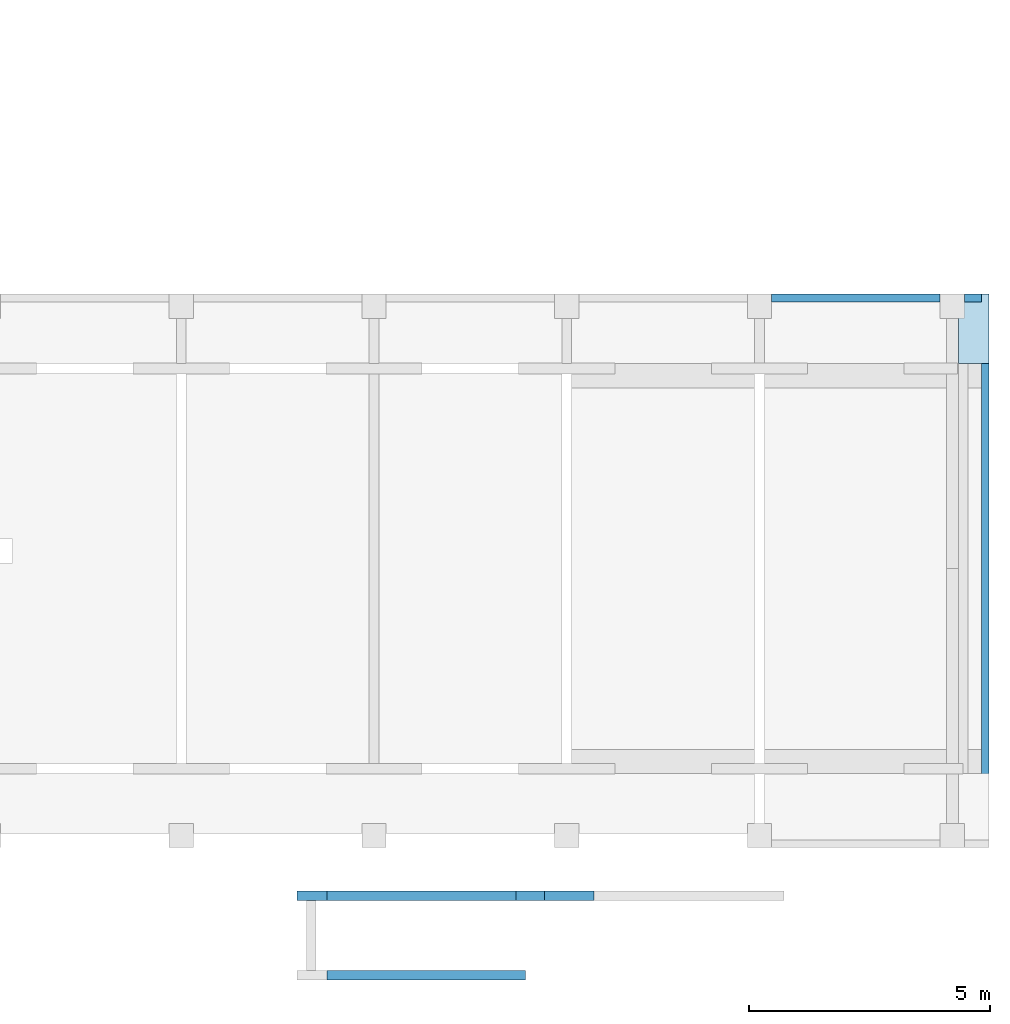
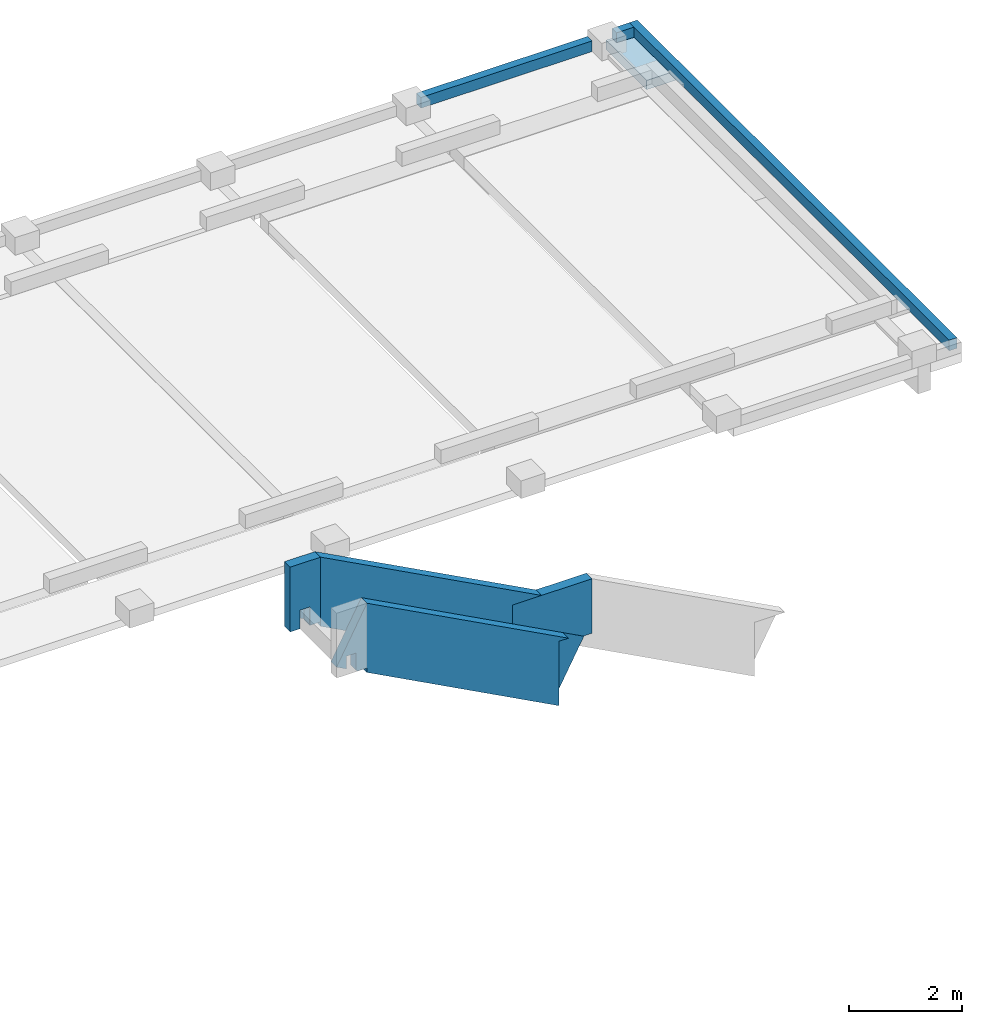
# One storey, part 5 of 5: 6 beams, 1 slab.
"""IFC2X3 building model written with IfcOpenShell, lengths in metres."""

from ifc_helpers import new_model, entity, si_unit, converted_unit, derived_unit, direction, frame, origin, place, context, subcontext, project, spatial, faceted_brep, source, transform, mapped, material, type_object, type_shapes, element, save


model = new_model("IFC2X3")

# Units and contexts
model_context = context("Model", 3, precision=1e-05, world=origin(), true_north=direction((6.12303176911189e-17, 1.0)))
body_context = subcontext(model_context, "Body", "Model", "MODEL_VIEW")
ifc_project = project(units=[si_unit("LENGTHUNIT", "METRE"), si_unit("AREAUNIT", "SQUARE_METRE"), si_unit("VOLUMEUNIT", "CUBIC_METRE"), converted_unit("PLANEANGLEUNIT", "DEGREE", entity("IfcRatioMeasure", 0.0174532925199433), si_unit("PLANEANGLEUNIT", "RADIAN"), dimensions=[0, 0, 0, 0, 0, 0, 0]), si_unit("MASSUNIT", "GRAM", prefix="KILO"), derived_unit("MASSDENSITYUNIT", [(si_unit("MASSUNIT", "GRAM", prefix="KILO"), 1), (si_unit("LENGTHUNIT", "METRE"), -3)]), si_unit("TIMEUNIT", "SECOND"), si_unit("FREQUENCYUNIT", "HERTZ"), si_unit("THERMODYNAMICTEMPERATUREUNIT", "DEGREE_CELSIUS"), derived_unit("THERMALTRANSMITTANCEUNIT", [(si_unit("MASSUNIT", "GRAM", prefix="KILO"), 1), (si_unit("THERMODYNAMICTEMPERATUREUNIT", "KELVIN"), -1), (si_unit("TIMEUNIT", "SECOND"), -3)]), derived_unit("VOLUMETRICFLOWRATEUNIT", [(si_unit("LENGTHUNIT", "METRE"), 3), (si_unit("TIMEUNIT", "SECOND"), -1)]), si_unit("ELECTRICCURRENTUNIT", "AMPERE"), si_unit("ELECTRICVOLTAGEUNIT", "VOLT"), si_unit("POWERUNIT", "WATT"), si_unit("FORCEUNIT", "NEWTON"), si_unit("ILLUMINANCEUNIT", "LUX"), si_unit("LUMINOUSFLUXUNIT", "LUMEN"), si_unit("LUMINOUSINTENSITYUNIT", "CANDELA"), derived_unit("USERDEFINED", [(si_unit("MASSUNIT", "GRAM", prefix="KILO"), -1), (si_unit("LENGTHUNIT", "METRE"), -2), (si_unit("TIMEUNIT", "SECOND"), 3), (si_unit("LUMINOUSFLUXUNIT", "LUMEN"), 1)]), derived_unit("LINEARVELOCITYUNIT", [(si_unit("LENGTHUNIT", "METRE"), 1), (si_unit("TIMEUNIT", "SECOND"), -1)]), si_unit("PRESSUREUNIT", "PASCAL"), derived_unit("USERDEFINED", [(si_unit("LENGTHUNIT", "METRE"), -2), (si_unit("MASSUNIT", "GRAM", prefix="KILO"), 1), (si_unit("TIMEUNIT", "SECOND"), -2)])], contexts=[model_context])

# Site, building, storey
site_placement = place(None, origin())
site = spatial("IfcSite", under=ifc_project, at=site_placement, Name="Default", CompositionType="ELEMENT")
building_placement = place(site_placement, origin())
building = spatial("IfcBuilding", under=site, at=building_placement, CompositionType="ELEMENT")
storey_placement = place(building_placement, origin())
storey = spatial("IfcBuildingStorey", under=building, at=storey_placement, Name="S01", CompositionType="ELEMENT", Elevation=0.0)

# Beams
ifc_material = material(Name="Béton, coulé sur place gris")
beam_type_1 = type_object("IfcBeamType", Name="16x23ht", PredefinedType="BEAM")
beam_1_placement = place(storey_placement, frame((70.0914484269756, -194.841320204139, -0.0815952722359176), z_axis=(0.0, 0.0, 1.0), x_axis=(0.0, 1.0, 0.0)))
element("IfcBeam", 1, at=beam_1_placement, inside=storey, type_object=beam_type_1, material=ifc_material, Name="II-Poutre rectangulaire - Béton:16x23ht", ObjectType="II-Poutre rectangulaire - Béton:16x23ht", context=body_context, shape_type="Brep", body=[
    faceted_brep([(11.3265011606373, -0.0549286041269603, 0.00493736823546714), (11.3265011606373, -0.00159527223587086, 0.00660848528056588), (11.3265011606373, -0.00159527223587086, 0.231595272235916), (11.3265011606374, -0.161595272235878, 0.231595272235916), (11.3265011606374, -0.161595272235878, 0.001595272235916), (11.3265011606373, -0.108261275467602, 0.00326627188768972), (11.1665011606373, -0.00159527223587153, 0.231595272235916), (0.0, -0.001595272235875, 0.231595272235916), (0.0, -0.161595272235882, 0.231595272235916), (0.0, -0.161595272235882, 0.001595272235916), (1.38166890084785, -0.161595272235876, 0.00159527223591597), (1.88166890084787, -0.161595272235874, 0.00159527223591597), (9.38483194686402, -0.161595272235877, 0.001595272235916), (9.88483194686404, -0.161595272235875, 0.001595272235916), (9.88483194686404, -0.161595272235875, 0.0215952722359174), (10.0450174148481, -0.161595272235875, 0.0193730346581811), (10.2052028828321, -0.161595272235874, 0.0171507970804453), (10.3653883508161, -0.161595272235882, 0.0149285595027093), (10.5255738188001, -0.161595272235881, 0.0127063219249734), (10.6857592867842, -0.16159527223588, 0.0104840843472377), (10.8459447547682, -0.16159527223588, 0.00826184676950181), (11.0061302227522, -0.161595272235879, 0.00603960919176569), (11.1663156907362, -0.161595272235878, 0.00381737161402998), (0.0, -0.001595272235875, 0.001595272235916), (1.38166890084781, -0.00159527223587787, 0.001595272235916), (1.88166890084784, -0.00159527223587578, 0.001595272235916), (9.38483194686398, -0.00159527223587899, 0.001595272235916), (9.88483194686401, -0.0015952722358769, 0.001595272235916), (11.2465011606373, -0.00159527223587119, 0.00744012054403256), (11.1665011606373, -0.00159527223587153, 0.00827175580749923), (11.0240934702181, -0.00159527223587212, 0.009752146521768), (10.8816857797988, -0.00159527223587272, 0.0112325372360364), (10.7392780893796, -0.00159527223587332, 0.0127129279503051), (10.5968703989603, -0.00159527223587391, 0.0141933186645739), (10.454462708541, -0.00159527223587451, 0.0156737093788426), (10.3120550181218, -0.00159527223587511, 0.0171541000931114), (10.1696473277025, -0.00159527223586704, 0.01863449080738), (10.0272396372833, -0.00159527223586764, 0.0201148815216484), (9.88483194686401, -0.00159527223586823, 0.0215952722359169), (9.88483194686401, -0.0690023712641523, 0.0215952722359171), (10.6680742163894, -0.0813016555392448, 0.0120962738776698)], [[[0, 1, 2, 3, 4, 5]], [[3, 2, 6, 7, 8]], [[3, 8, 9, 10, 11, 12, 13, 14, 15, 16, 17, 18, 19, 20, 21, 22, 4]], [[13, 12, 11, 10, 9, 23, 24, 25, 26, 27]], [[2, 1, 28, 29, 30, 31, 32, 33, 34, 35, 36, 37, 38, 27, 26, 25, 24, 23, 7, 6]], [[8, 7, 23, 9]], [[38, 39, 14, 13, 27]], [[21, 40, 5]], [[22, 21, 5]], [[0, 40, 30]], [[22, 5, 4]], [[40, 0, 5]], [[18, 17, 16, 40, 21, 20, 19]], [[40, 16, 39]], [[32, 31, 30, 40, 35, 34, 33]], [[35, 39, 38, 37, 36]], [[0, 30, 29, 28, 1]], [[39, 35, 40]], [[39, 16, 15, 14]]]),
])
beam_type_2 = type_object("IfcBeamType", Name="16x23ht", PredefinedType="BEAM", material=ifc_material)
shared_shape = source(origin(), body_context, "Body", "Brep", [
    faceted_brep([(3.49999999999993, 0.00159527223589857, 0.23), (3.49999999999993, 0.161595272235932, 0.23), (0.0, 0.161595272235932, 0.23), (0.0, 0.00159527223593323, 0.23), (3.49999999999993, 0.161595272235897, 0.0), (0.0, 0.161595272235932, 0.0), (3.49999999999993, 0.00159527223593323, 0.0), (0.0, 0.00159527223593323, 0.0)], [[[0, 1, 2, 3]], [[1, 4, 5, 2]], [[4, 6, 7, 5]], [[6, 0, 3, 7]], [[3, 2, 5, 7]], [[1, 0, 6, 4]]]),
    faceted_brep([(4.0, 0.0815952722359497, 0.0163006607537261), (4.0, 0.00159527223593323, 0.0165180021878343), (4.0, 0.00159527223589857, 0.23), (4.0, 0.161595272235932, 0.23), (4.0, 0.161595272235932, 0.0160833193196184), (4.3532999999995, 0.00159527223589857, 0.23), (4.3532999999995, 0.161595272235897, 0.23), (4.3532999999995, 0.161595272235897, 0.00501321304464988), (4.28263999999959, 0.161595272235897, 0.00722723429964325), (4.21197999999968, 0.161595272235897, 0.00944125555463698), (4.14131999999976, 0.161595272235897, 0.0116552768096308), (4.07065999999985, 0.161595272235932, 0.0138692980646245), (4.07065999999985, 0.00159527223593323, 0.0145496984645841), (4.14131999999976, 0.00159527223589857, 0.0125813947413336), (4.21197999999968, 0.00159527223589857, 0.0106130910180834), (4.28263999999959, 0.00159527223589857, 0.00864478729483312), (4.3532999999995, 0.00159527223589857, 0.00667648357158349), (4.3532999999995, 0.081595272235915, 0.00584484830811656), (4.1766500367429, 0.08347815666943, 0.0110604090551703)], [[[0, 1, 2, 3, 4]], [[3, 2, 5, 6]], [[4, 3, 6, 7, 8, 9, 10, 11]], [[12, 13, 14, 15, 16, 5, 2, 1]], [[17, 7, 6, 5, 16]], [[8, 7, 17]], [[18, 11, 10, 9, 8]], [[15, 17, 16]], [[18, 17, 15]], [[15, 14, 13, 12, 18]], [[17, 18, 8]], [[0, 11, 18]], [[4, 11, 0]], [[12, 1, 0]], [[12, 0, 18]]]),
])
type_shapes(beam_type_2, [shared_shape])
beam_2_placement = place(storey_placement, frame((65.7397436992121, -183.676414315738, -0.0800000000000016)))
element("IfcBeam", 2, at=beam_2_placement, inside=storey, type_object=beam_type_2, material=ifc_material, Name="II-Poutre rectangulaire - Béton:16x23ht", ObjectType="II-Poutre rectangulaire - Béton:16x23ht", context=body_context, shape_type="MappedRepresentation", body=[
    mapped(shared_shape, transform((0.0, 0.0, 0.0), scale=1.0)),
])
beam_type_3 = type_object("IfcBeamType", Name="20x132ht", PredefinedType="BEAM")
beam_3_placement = place(storey_placement, frame((55.8887977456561, -196.099651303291, -2.60938537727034), z_axis=(0.470588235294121, 0.0, 0.882352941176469), x_axis=(0.882352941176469, 0.0, -0.470588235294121)))
element("IfcBeam", 3, at=beam_3_placement, inside=storey, type_object=beam_type_3, material=ifc_material, Name="II-Poutre rectangulaire - Béton:20x132ht", ObjectType="II-Poutre rectangulaire - Béton:20x132ht", context=body_context, shape_type="Brep", body=[
    faceted_brep([(4.01141828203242, 0.200000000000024, 3.45942308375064), (4.01141828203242, 0.198331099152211, 3.45942308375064), (4.01141828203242, 0.0, 3.45942308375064), (4.01141828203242, 0.0, 2.14052591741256), (4.01141828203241, 0.198331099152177, 2.14052591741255), (4.01141828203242, 0.198331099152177, 2.13942308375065), (4.01141828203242, 0.200000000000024, 2.13942308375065), (-1.14102564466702, 0.200000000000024, 3.45942308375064), (-1.14102564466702, 0.200000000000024, 2.13942308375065), (-1.14102564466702, 0.198331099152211, 2.13942308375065), (-1.14102564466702, 0.0, 2.13942308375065), (-1.14102564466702, 0.0, 3.45942308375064), (3.98022435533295, 0.0, 3.45942308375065), (-0.913286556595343, 0.0, 2.13942308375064), (-1.04122877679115, 0.0, 2.37931474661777), (-0.864758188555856, 0.0, 2.4734323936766), (-0.686619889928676, 0.0, 2.13942308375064), (-0.641025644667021, 0.0, 2.13942308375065), (-0.482202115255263, 0.0, 2.22412896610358), (-0.437025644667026, 0.0, 2.13942308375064), (4.01104677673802, 0.0, 2.13942308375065), (4.01067112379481, 0.0, 2.14012743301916), (4.01104677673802, 0.198331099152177, 2.13942308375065), (-0.437025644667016, 0.198331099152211, 2.13942308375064), (-0.64102564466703, 0.198331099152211, 2.13942308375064), (-0.686619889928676, 0.198331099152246, 2.13942308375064), (-0.913286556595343, 0.198331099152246, 2.13942308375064), (-0.482202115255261, 0.198331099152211, 2.22412896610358), (-1.04122877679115, 0.198331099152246, 2.37931474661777), (-0.864758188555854, 0.198331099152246, 2.4734323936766), (4.01067112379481, 0.198331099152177, 2.14012743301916)], [[[0, 1, 2, 3, 4, 5, 6]], [[7, 8, 9, 10, 11]], [[2, 1, 0, 7, 11, 12]], [[11, 10, 13, 14, 15, 16, 17, 18, 19, 20, 21, 3, 2, 12]], [[10, 9, 8, 6, 5, 22, 20, 19, 23, 24, 17, 16, 25, 26, 13]], [[0, 6, 8, 7]], [[23, 27, 24]], [[24, 27, 18, 17]], [[27, 23, 19, 18]], [[28, 29, 15, 14]], [[26, 28, 14, 13]], [[29, 25, 16, 15]], [[29, 28, 26, 25]], [[4, 30, 22, 5]], [[22, 30, 21, 20]], [[30, 4, 3, 21]]]),
])
beam_4_placement = place(storey_placement, frame((55.8887977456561, -197.74475130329, -2.61238471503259), z_axis=(0.470588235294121, 0.0, 0.882352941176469), x_axis=(0.882352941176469, 0.0, -0.470588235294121)))
element("IfcBeam", 4, at=beam_4_placement, inside=storey, type_object=beam_type_3, material=ifc_material, Name="II-Poutre rectangulaire - Béton:20x132ht", ObjectType="II-Poutre rectangulaire - Béton:20x132ht", context=body_context, shape_type="Brep", body=[
    faceted_brep([(4.01638042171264, 0.200000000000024, 2.14206955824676), (4.01638042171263, 0.200000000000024, 3.46206955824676), (4.01638042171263, 0.198331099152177, 3.46206955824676), (4.01638042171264, 0.198331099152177, 2.14206955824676), (-1.1424370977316, 0.200000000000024, 3.46206955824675), (-1.14243709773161, 0.200000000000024, 2.14206955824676), (-1.14243709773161, 0.198331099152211, 2.14206955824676), (-1.14243709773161, 0.0, 2.14206955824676), (-1.1424370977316, 0.0, 3.46206955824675), (3.52816583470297, 0.0, 3.46206955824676), (3.52816583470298, 0.198331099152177, 3.46206955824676), (-0.914698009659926, 0.0, 2.14206955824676), (-1.04264022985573, 0.0, 2.38196122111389), (-0.866169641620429, 0.0, 2.47607886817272), (-0.688031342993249, 0.0, 2.14206955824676), (-0.642437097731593, 0.0, 2.14206955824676), (-0.483613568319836, 0.0, 2.2267754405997), (-0.438437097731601, 0.0, 2.14206955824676), (4.00963532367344, 0.0, 2.14206955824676), (3.3549154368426, 0.0, 3.36966934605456), (-0.438437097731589, 0.198331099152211, 2.14206955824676), (-0.642437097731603, 0.198331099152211, 2.14206955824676), (-0.68803134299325, 0.200000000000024, 2.14206955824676), (4.00963532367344, 0.198331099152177, 2.14206955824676), (-0.866169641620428, 0.200000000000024, 2.47607886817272), (-1.04264022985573, 0.200000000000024, 2.38196122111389), (-0.914698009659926, 0.200000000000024, 2.14206955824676), (-0.483613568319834, 0.198331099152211, 2.2267754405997), (-0.866169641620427, 0.198331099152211, 2.47607886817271), (-1.04264022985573, 0.198331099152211, 2.38196122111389), (3.3549154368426, 0.198331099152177, 3.36966934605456)], [[[0, 1, 2, 3]], [[4, 5, 6, 7, 8]], [[4, 8, 9, 10, 2, 1]], [[8, 7, 11, 12, 13, 14, 15, 16, 17, 18, 19, 9]], [[20, 21, 15, 14, 22, 0, 3, 23, 18, 17]], [[1, 0, 22, 24, 25, 26, 5, 4]], [[20, 27, 21]], [[21, 27, 16, 15]], [[27, 20, 17, 16]], [[24, 28, 13, 12, 29, 25]], [[25, 29, 12, 11, 26]], [[13, 28, 24, 22, 14]], [[7, 6, 5, 26, 11]], [[10, 30, 23, 3, 2]], [[23, 30, 19, 18]], [[30, 10, 9, 19]]]),
])
beam_type_4 = type_object("IfcBeamType", Name="20x140ht", PredefinedType="BEAM")
beam_5_placement = place(storey_placement, frame((55.8887977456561, -196.101320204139, -0.420000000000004)))
element("IfcBeam", 5, at=beam_5_placement, inside=storey, type_object=beam_type_4, material=ifc_material, Name="II-Poutre rectangulaire - Béton:20x140ht", ObjectType="II-Poutre rectangulaire - Béton:20x140ht", context=body_context, shape_type="Brep", body=[
    faceted_brep([(0.621176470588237, 0.0, 1.4), (0.621176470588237, 0.0, 0.0), (0.621176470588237, 0.00166890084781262, 0.0), (0.621176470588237, 0.00166890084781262, 1.4), (0.0, 0.200000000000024, 0.0), (0.0, 0.0, 0.0), (0.0, 0.0, 1.4), (0.0, 0.200000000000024, 1.4), (0.0, 0.200000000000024, 0.235294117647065), (0.621176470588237, 0.200000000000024, 1.4), (0.200946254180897, 0.0, 0.0), (0.200946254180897, 0.0, 0.400000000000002), (0.400946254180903, 0.0, 0.400000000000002), (0.400946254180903, 0.0, 0.0), (0.400946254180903, 0.200000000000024, 0.0), (0.441176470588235, 0.199999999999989, 0.0), (0.441176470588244, 0.00166890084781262, 0.0), (0.200946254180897, 0.00166890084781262, 0.400000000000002), (0.400946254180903, 0.00166890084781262, 0.400000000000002), (0.200946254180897, 0.200000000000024, 0.0), (0.200946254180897, 0.200000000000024, 0.128122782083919), (0.200946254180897, 0.00166890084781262, 0.128122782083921), (0.400946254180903, 0.00166890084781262, 0.0214561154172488), (0.400946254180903, 0.200000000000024, 0.0214561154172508), (0.0, 0.00166890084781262, 0.235294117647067)], [[[0, 1, 2, 3]], [[4, 5, 6, 7, 8]], [[7, 6, 0, 3, 9]], [[1, 0, 6, 5, 10, 11, 12, 13]], [[13, 14, 15, 16, 2, 1]], [[7, 9, 8]], [[12, 11, 17, 18]], [[11, 10, 19, 20, 21, 17]], [[13, 12, 18, 22, 23, 14]], [[3, 24, 8, 9]], [[24, 3, 2, 16, 22, 18, 17, 21]], [[22, 16, 15, 23]], [[15, 14, 23]], [[5, 4, 19, 10]], [[19, 4, 8, 20]], [[8, 24, 21, 20]]]),
])
beam_type_5 = type_object("IfcBeamType", Name="20x118ht", PredefinedType="BEAM")
beam_6_placement = place(storey_placement, frame((60.434743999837, -196.101320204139, -2.61000000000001)))
element("IfcBeam", 6, at=beam_6_placement, inside=storey, type_object=beam_type_5, material=ifc_material, Name="II-Poutre rectangulaire - Béton:20x118ht", ObjectType="II-Poutre rectangulaire - Béton:20x118ht", context=body_context, shape_type="Brep", body=[
    faceted_brep([(1.62397991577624, 0.0, 1.18000000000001), (1.62397991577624, 0.0, 0.0), (1.62397991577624, 0.00166890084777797, 0.0), (1.62397991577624, 0.00166890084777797, 1.18000000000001), (0.0, 0.0, 0.00158771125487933), (0.0, 0.0, 1.18000000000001), (0.0, 0.00166890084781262, 1.18000000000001), (0.0, 0.00166890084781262, 0.00158771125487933), (1.62397991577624, 0.200000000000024, 1.18000000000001), (0.593980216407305, 0.200000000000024, 1.18000000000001), (0.593980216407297, 0.00166890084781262, 1.18000000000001), (1.01523021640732, 0.0, 0.00158771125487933), (1.01523021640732, 0.0, 0.0), (1.01523021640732, 0.200000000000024, 0.0), (1.03140988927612, 0.200000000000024, 0.0), (1.03140988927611, 0.00166890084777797, 0.0), (1.00164403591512, 0.200000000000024, 0.0159132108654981), (1.01523021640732, 0.200000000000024, 0.00158771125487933), (0.000846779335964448, 0.200000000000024, 0.001587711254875), (0.621504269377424, 0.200000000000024, 1.16532050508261), (1.00164403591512, 0.00166890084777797, 0.015913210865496), (0.000846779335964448, 0.00166890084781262, 0.00158771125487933), (0.621504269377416, 0.00166890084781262, 1.16532050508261)], [[[0, 1, 2, 3]], [[4, 5, 6, 7]], [[5, 0, 3, 8, 9, 10, 6]], [[1, 0, 5, 4, 11, 12]], [[2, 1, 12, 13, 14, 15]], [[8, 16, 14, 13, 17, 18, 19, 9]], [[3, 20, 16, 8]], [[20, 3, 2, 15]], [[16, 20, 15, 14]], [[17, 11, 4, 7, 21, 18]], [[11, 17, 13, 12]], [[21, 22, 19, 18]], [[19, 22, 10, 9]], [[22, 21, 7, 6, 10]]]),
])

# Slab
slab_type = type_object("IfcSlabType", Name="Floor:Dalle BA ép.18", PredefinedType="FLOOR")
slab_placement = place(storey_placement, origin())
element("IfcSlab", 7, at=slab_placement, inside=storey, type_object=slab_type, Name="Floor:Dalle BA ép.18", ObjectType="Floor:Dalle BA ép.18", PredefinedType="FLOOR", context=body_context, shape_type="Brep", body=[
    faceted_brep([(70.2530392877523, -184.956488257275, -0.26), (69.6147436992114, -184.956488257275, -0.26), (69.6147436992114, -183.514819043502, -0.26), (70.2530392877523, -183.514819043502, -0.26), (69.6147436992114, -184.956488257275, -0.0600000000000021), (69.6147436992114, -184.474142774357, -0.0600000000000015), (69.6147436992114, -183.514819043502, -0.0600000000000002), (70.2530392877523, -183.514819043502, -0.0800000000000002), (69.739743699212, -183.514819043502, -0.0639166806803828), (69.9163936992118, -183.514819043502, -0.0694517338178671), (70.0930436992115, -183.514819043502, -0.0749867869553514), (70.2530392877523, -184.474142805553, -0.0666914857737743), (70.2530392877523, -184.956488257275, -0.0600000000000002), (70.0930436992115, -184.956488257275, -0.0600000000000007), (69.8507094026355, -184.956488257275, -0.0600000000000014), (69.9718765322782, -184.23565367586, -0.0655951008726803), (69.7893679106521, -184.257324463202, -0.0626535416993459)], [[[0, 1, 2, 3]], [[2, 1, 4, 5, 6]], [[7, 3, 2, 6, 8, 9, 10]], [[0, 3, 7, 11, 12]], [[1, 0, 12, 13, 14, 4]], [[11, 10, 15]], [[6, 16, 9, 8]], [[6, 5, 4, 16]], [[13, 12, 11]], [[16, 14, 15]], [[4, 14, 16]], [[11, 7, 10]], [[13, 11, 15]], [[16, 15, 9]], [[15, 14, 13]], [[15, 10, 9]]]),
])

save(model, "model.ifc")
